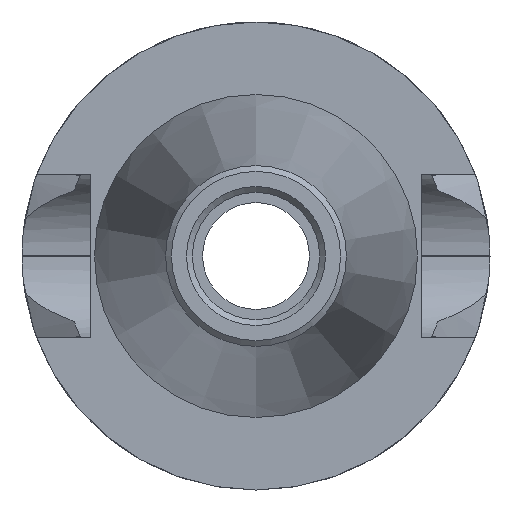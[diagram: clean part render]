
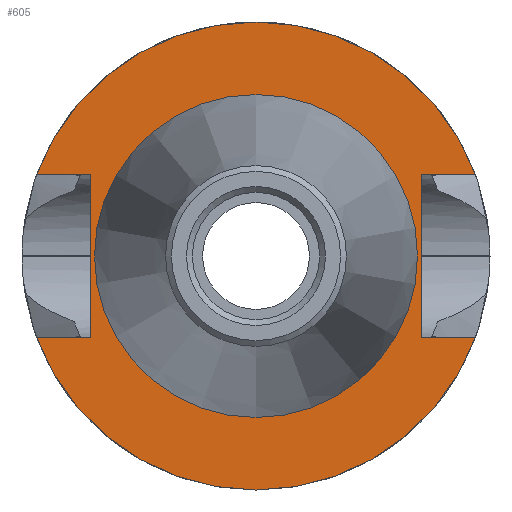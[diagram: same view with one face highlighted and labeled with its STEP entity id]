
A CAD part, front view. The second image highlights one B-rep face of the part: STEP entity #605.
In plain terms, the highlighted planar face has unit normal (0, -1, 0).
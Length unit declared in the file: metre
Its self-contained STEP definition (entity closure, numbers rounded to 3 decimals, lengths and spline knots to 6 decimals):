
#24=PLANE('',#676);
#41=LINE('',#1015,#65);
#43=LINE('',#1019,#67);
#45=LINE('',#1023,#69);
#47=LINE('',#1072,#71);
#48=LINE('',#1074,#72);
#49=LINE('',#1076,#73);
#65=VECTOR('',#770,1.);
#67=VECTOR('',#774,1.);
#69=VECTOR('',#778,1.);
#71=VECTOR('',#806,1.);
#72=VECTOR('',#807,1.);
#73=VECTOR('',#808,1.);
#195=ORIENTED_EDGE('',*,*,#325,.F.);
#196=ORIENTED_EDGE('',*,*,#317,.T.);
#197=ORIENTED_EDGE('',*,*,#309,.T.);
#198=ORIENTED_EDGE('',*,*,#311,.T.);
#199=ORIENTED_EDGE('',*,*,#307,.F.);
#200=ORIENTED_EDGE('',*,*,#288,.T.);
#201=ORIENTED_EDGE('',*,*,#326,.T.);
#202=ORIENTED_EDGE('',*,*,#327,.T.);
#203=ORIENTED_EDGE('',*,*,#328,.F.);
#288=EDGE_CURVE('',#366,#367,#420,.T.);
#307=EDGE_CURVE('',#366,#380,#41,.T.);
#309=EDGE_CURVE('',#382,#381,#43,.T.);
#311=EDGE_CURVE('',#381,#380,#45,.T.);
#317=EDGE_CURVE('',#387,#382,#428,.T.);
#325=EDGE_CURVE('',#391,#391,#431,.T.);
#326=EDGE_CURVE('',#367,#392,#47,.T.);
#327=EDGE_CURVE('',#392,#393,#48,.T.);
#328=EDGE_CURVE('',#387,#393,#49,.T.);
#366=VERTEX_POINT('',#959);
#367=VERTEX_POINT('',#960);
#380=VERTEX_POINT('',#1010);
#381=VERTEX_POINT('',#1018);
#382=VERTEX_POINT('',#1020);
#387=VERTEX_POINT('',#1042);
#391=VERTEX_POINT('',#1071);
#392=VERTEX_POINT('',#1073);
#393=VERTEX_POINT('',#1075);
#420=CIRCLE('',#654,0.023);
#428=CIRCLE('',#670,0.023);
#431=CIRCLE('',#677,0.015625);
#468=EDGE_LOOP('',(#195));
#469=EDGE_LOOP('',(#196,#197,#198,#199,#200,#201,#202,#203));
#530=FACE_BOUND('',#468,.T.);
#531=FACE_BOUND('',#469,.T.);
#605=ADVANCED_FACE('',(#530,#531),#24,.T.);
#654=AXIS2_PLACEMENT_3D('',#958,#744,#745);
#670=AXIS2_PLACEMENT_3D('',#1041,#789,#790);
#676=AXIS2_PLACEMENT_3D('',#1069,#802,#803);
#677=AXIS2_PLACEMENT_3D('',#1070,#804,#805);
#744=DIRECTION('',(0.,-1.,0.));
#745=DIRECTION('',(0.,0.,-1.));
#770=DIRECTION('',(1.,0.,0.));
#774=DIRECTION('',(1.,0.,0.));
#778=DIRECTION('',(0.,0.,-1.));
#789=DIRECTION('',(0.,-1.,0.));
#790=DIRECTION('',(0.,0.,-1.));
#802=DIRECTION('',(0.,-1.,0.));
#803=DIRECTION('',(1.,0.,0.));
#804=DIRECTION('',(0.,-1.,0.));
#805=DIRECTION('',(0.,0.,-1.));
#806=DIRECTION('',(-1.,0.,0.));
#807=DIRECTION('',(0.,0.,1.));
#808=DIRECTION('',(-1.,0.,0.));
#958=CARTESIAN_POINT('',(0.,0.,0.));
#959=CARTESIAN_POINT('',(-0.021545,0.,-0.00805));
#960=CARTESIAN_POINT('',(0.021545,0.,-0.00805));
#1010=CARTESIAN_POINT('',(-0.0163,0.,-0.00805));
#1015=CARTESIAN_POINT('',(0.,0.,-0.00805));
#1018=CARTESIAN_POINT('',(-0.0163,0.,0.00805));
#1019=CARTESIAN_POINT('',(0.,0.,0.00805));
#1020=CARTESIAN_POINT('',(-0.021545,0.,0.00805));
#1023=CARTESIAN_POINT('',(-0.0163,0.,0.));
#1041=CARTESIAN_POINT('',(0.,0.,0.));
#1042=CARTESIAN_POINT('',(0.021545,0.,0.00805));
#1069=CARTESIAN_POINT('',(0.,0.,0.));
#1070=CARTESIAN_POINT('',(0.,0.,0.));
#1071=CARTESIAN_POINT('',(0.,0.,-0.015625));
#1072=CARTESIAN_POINT('',(0.,0.,-0.00805));
#1073=CARTESIAN_POINT('',(0.0163,0.,-0.00805));
#1074=CARTESIAN_POINT('',(0.0163,0.,0.));
#1075=CARTESIAN_POINT('',(0.0163,0.,0.00805));
#1076=CARTESIAN_POINT('',(0.,0.,0.00805));
